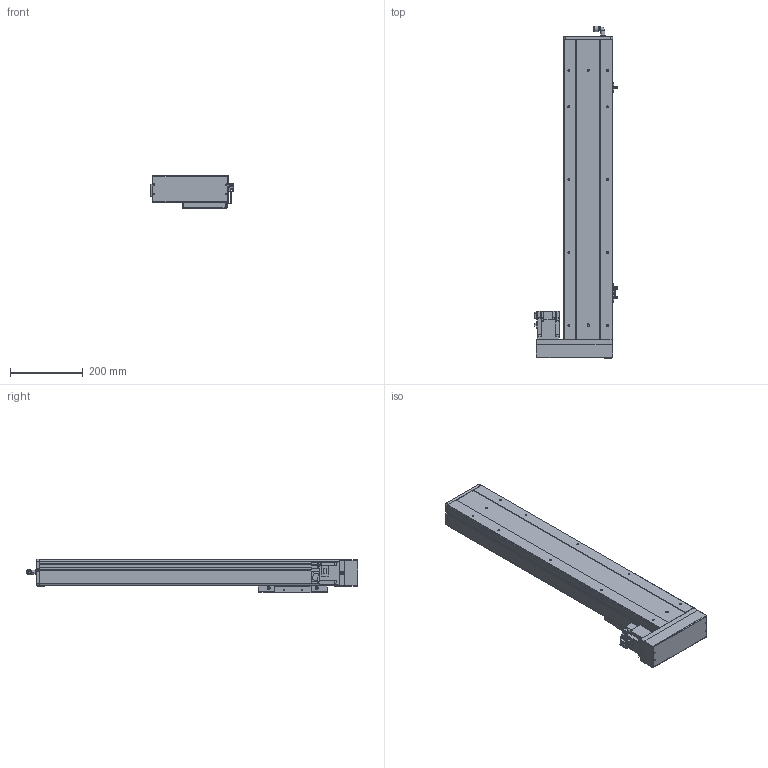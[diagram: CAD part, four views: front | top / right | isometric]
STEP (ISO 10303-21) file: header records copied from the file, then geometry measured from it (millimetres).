
FILE_DESCRIPTION (( 'STEP AP203' ), '1' );
FILE_NAME ('11.STEP', '2020-11-02T09:22:33', ( '' ), ( '' ), 'SwSTEP 2.0', 'SolidWorks 2016', '' );
FILE_SCHEMA (( 'CONFIG_CONTROL_DESIGN' ));
Length unit declared in the file: millimetre
Products named in the file (11): BCH14-BL-02; BCH14-BL-03; BCH14-BL-HZ; BCH14-BL-10; BCH14-BL-04; BCH14-BL-01; BCH14-BC-BL-BR-菁釱; BCH14-BL-06; BCH14-BL-M20; 11; BCH14-BL-05
Assembly tree (13 placements, depth 2):
  11
    BCH14-BC-BL-BR-菁釱
    BCH14-BL-02
    BCH14-BL-05
    BCH14-BL-06
    BCH14-BL-HZ
    BCH14-BL-M20
    BCH14-BL-01
    BCH14-BL-03  x2
    BCH14-BL-04  x3
    BCH14-BL-10
Bounding box: 229 x 911.43 x 91 mm (x, y, z)
Volume: 4488614.9 mm3; surface area: 928117.7 mm2
Topology: 21 solids, 21 shells, 1396 faces, 3683 edges, 2332 vertices
Faces by surface type: plane 851, cylinder 395, cone 106, bspline 30, sphere 8, torus 6
Entity records: 37440 total; most frequent: CARTESIAN_POINT 8050, ORIENTED_EDGE 5838, DIRECTION 5806, EDGE_CURVE 2919, LINE 1964, VECTOR 1964, AXIS2_PLACEMENT_3D 1921, VERTEX_POINT 1880
